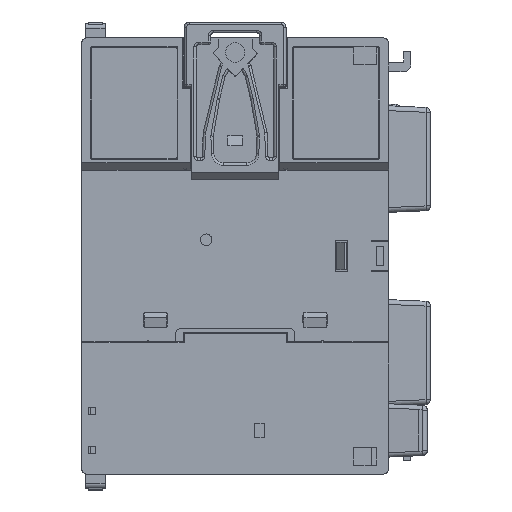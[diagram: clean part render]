
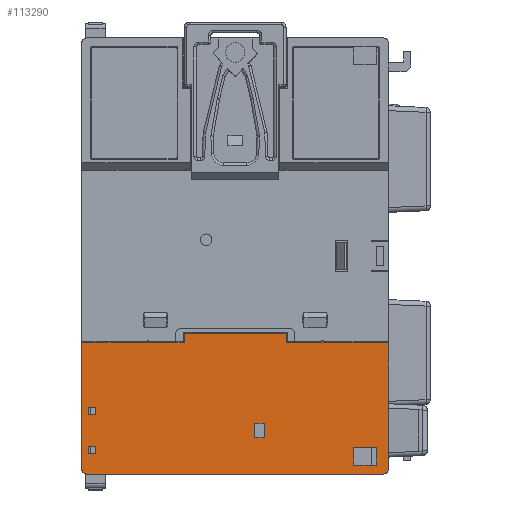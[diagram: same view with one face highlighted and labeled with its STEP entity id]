
A CAD part, front view. The second image highlights one B-rep face of the part: STEP entity #113290.
In plain terms, the highlighted planar face has unit normal (0, -1, 0).
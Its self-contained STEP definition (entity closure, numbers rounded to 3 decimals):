
#24495=DIRECTION('',(0.,0.,-1.));
#24496=VECTOR('',#24495,26.05);
#24497=CARTESIAN_POINT('',(31.65,0.,-17.95));
#24498=LINE('',#24497,#24496);
#24499=DIRECTION('',(-1.,0.,0.));
#24500=VECTOR('',#24499,61.3);
#24501=CARTESIAN_POINT('',(30.65,0.,-45.));
#24502=LINE('',#24501,#24500);
#24503=DIRECTION('',(0.,0.,1.));
#24504=VECTOR('',#24503,26.05);
#24505=CARTESIAN_POINT('',(-31.65,0.,-44.));
#24506=LINE('',#24505,#24504);
#24531=DIRECTION('',(0.,0.,1.));
#24532=VECTOR('',#24531,1.5);
#24533=CARTESIAN_POINT('',(-30.35,0.,-40.75));
#24534=LINE('',#24533,#24532);
#24535=DIRECTION('',(-1.,0.,0.));
#24536=VECTOR('',#24535,1.5);
#24537=CARTESIAN_POINT('',(-28.85,0.,-40.75));
#24538=LINE('',#24537,#24536);
#24539=DIRECTION('',(0.,0.,-1.));
#24540=VECTOR('',#24539,1.5);
#24541=CARTESIAN_POINT('',(-28.85,0.,-39.25));
#24542=LINE('',#24541,#24540);
#24543=DIRECTION('',(1.,0.,0.));
#24544=VECTOR('',#24543,1.5);
#24545=CARTESIAN_POINT('',(-30.35,0.,-39.25));
#24546=LINE('',#24545,#24544);
#24547=DIRECTION('',(0.,0.,1.));
#24548=VECTOR('',#24547,1.5);
#24549=CARTESIAN_POINT('',(-30.35,0.,-32.75));
#24550=LINE('',#24549,#24548);
#24551=DIRECTION('',(-1.,0.,0.));
#24552=VECTOR('',#24551,1.5);
#24553=CARTESIAN_POINT('',(-28.85,0.,-32.75));
#24554=LINE('',#24553,#24552);
#24555=DIRECTION('',(0.,0.,-1.));
#24556=VECTOR('',#24555,1.5);
#24557=CARTESIAN_POINT('',(-28.85,0.,-31.25));
#24558=LINE('',#24557,#24556);
#24559=DIRECTION('',(1.,0.,0.));
#24560=VECTOR('',#24559,1.5);
#24561=CARTESIAN_POINT('',(-30.35,0.,-31.25));
#24562=LINE('',#24561,#24560);
#24563=DIRECTION('',(0.,0.,1.));
#24564=VECTOR('',#24563,3.7);
#24565=CARTESIAN_POINT('',(29.1,0.,-43.2));
#24566=LINE('',#24565,#24564);
#24567=DIRECTION('',(-1.,0.,0.));
#24568=VECTOR('',#24567,4.6);
#24569=CARTESIAN_POINT('',(29.1,0.,-39.5));
#24570=LINE('',#24569,#24568);
#24571=DIRECTION('',(0.,0.,-1.));
#24572=VECTOR('',#24571,3.7);
#24573=CARTESIAN_POINT('',(24.5,0.,-39.5));
#24574=LINE('',#24573,#24572);
#24575=DIRECTION('',(1.,0.,0.));
#24576=VECTOR('',#24575,4.6);
#24577=CARTESIAN_POINT('',(24.5,0.,-43.2));
#24578=LINE('',#24577,#24576);
#24583=DIRECTION('',(0.,0.,1.));
#24584=VECTOR('',#24583,3.);
#24585=CARTESIAN_POINT('',(4.,0.,-37.5));
#24586=LINE('',#24585,#24584);
#24587=DIRECTION('',(-1.,0.,0.));
#24588=VECTOR('',#24587,2.);
#24589=CARTESIAN_POINT('',(6.,0.,-37.5));
#24590=LINE('',#24589,#24588);
#24591=DIRECTION('',(0.,0.,-1.));
#24592=VECTOR('',#24591,3.);
#24593=CARTESIAN_POINT('',(6.,0.,-34.5));
#24594=LINE('',#24593,#24592);
#24595=DIRECTION('',(1.,0.,0.));
#24596=VECTOR('',#24595,2.);
#24597=CARTESIAN_POINT('',(4.,0.,-34.5));
#24598=LINE('',#24597,#24596);
#24599=DIRECTION('',(-1.,0.,0.));
#24600=VECTOR('',#24599,7.3);
#24601=CARTESIAN_POINT('',(17.85,0.,-17.95));
#24602=LINE('',#24601,#24600);
#24615=DIRECTION('',(0.,0.,1.));
#24616=VECTOR('',#24615,1.95);
#24617=CARTESIAN_POINT('',(10.55,0.,-17.95));
#24618=LINE('',#24617,#24616);
#24635=DIRECTION('',(-1.,0.,0.));
#24636=VECTOR('',#24635,21.1);
#24637=CARTESIAN_POINT('',(10.55,0.,-16.));
#24638=LINE('',#24637,#24636);
#24653=DIRECTION('',(0.,0.,-1.));
#24654=VECTOR('',#24653,1.95);
#24655=CARTESIAN_POINT('',(-10.55,0.,-16.));
#24656=LINE('',#24655,#24654);
#24677=DIRECTION('',(-1.,0.,0.));
#24678=VECTOR('',#24677,7.3);
#24679=CARTESIAN_POINT('',(-10.55,0.,-17.95));
#24680=LINE('',#24679,#24678);
#24737=DIRECTION('',(-1.,0.,0.));
#24738=VECTOR('',#24737,13.5);
#24739=CARTESIAN_POINT('',(-18.15,0.,-17.95));
#24740=LINE('',#24739,#24738);
#24746=CARTESIAN_POINT('',(-18.,0.,-17.75));
#24747=DIRECTION('',(0.,-1.,0.));
#24748=DIRECTION('',(0.6,0.,-0.8));
#24749=AXIS2_PLACEMENT_3D('',#24746,#24747,#24748);
#24760=DIRECTION('',(-1.,0.,0.));
#24761=VECTOR('',#24760,13.5);
#24762=CARTESIAN_POINT('',(31.65,0.,-17.95));
#24763=LINE('',#24762,#24761);
#25573=CARTESIAN_POINT('',(30.65,0.,-44.));
#25574=DIRECTION('',(0.,-1.,0.));
#25575=DIRECTION('',(0.,0.,-1.));
#25576=AXIS2_PLACEMENT_3D('',#25573,#25574,#25575);
#28803=CARTESIAN_POINT('',(18.,0.,-17.75));
#28804=DIRECTION('',(0.,-1.,0.));
#28805=DIRECTION('',(0.6,0.,-0.8));
#28806=AXIS2_PLACEMENT_3D('',#28803,#28804,#28805);
#29021=CARTESIAN_POINT('',(-30.65,0.,-44.));
#29022=DIRECTION('',(0.,-1.,0.));
#29023=DIRECTION('',(-1.,0.,0.));
#29024=AXIS2_PLACEMENT_3D('',#29021,#29022,#29023);
#64086=CARTESIAN_POINT('',(30.65,0.,-45.));
#64087=CARTESIAN_POINT('',(31.65,0.,-44.));
#64088=VERTEX_POINT('',#64086);
#64089=VERTEX_POINT('',#64087);
#64090=CARTESIAN_POINT('',(-31.65,0.,-44.));
#64091=CARTESIAN_POINT('',(-30.65,0.,-45.));
#64092=VERTEX_POINT('',#64090);
#64093=VERTEX_POINT('',#64091);
#64218=CARTESIAN_POINT('',(17.85,0.,-17.95));
#64219=CARTESIAN_POINT('',(10.55,0.,-17.95));
#64220=VERTEX_POINT('',#64218);
#64221=VERTEX_POINT('',#64219);
#64226=CARTESIAN_POINT('',(10.55,0.,-16.));
#64227=VERTEX_POINT('',#64226);
#64240=CARTESIAN_POINT('',(-10.55,0.,-16.));
#64241=VERTEX_POINT('',#64240);
#64242=CARTESIAN_POINT('',(-10.55,0.,-17.95));
#64243=VERTEX_POINT('',#64242);
#64248=CARTESIAN_POINT('',(-17.85,0.,-17.95));
#64249=VERTEX_POINT('',#64248);
#64270=CARTESIAN_POINT('',(-18.15,0.,-17.95));
#64271=CARTESIAN_POINT('',(-31.65,0.,-17.95));
#64272=VERTEX_POINT('',#64270);
#64273=VERTEX_POINT('',#64271);
#64278=CARTESIAN_POINT('',(31.65,0.,-17.95));
#64279=VERTEX_POINT('',#64278);
#64280=CARTESIAN_POINT('',(18.15,0.,-17.95));
#64281=VERTEX_POINT('',#64280);
#64523=CARTESIAN_POINT('',(-30.35,0.,-40.75));
#64524=CARTESIAN_POINT('',(-30.35,0.,-39.25));
#64525=VERTEX_POINT('',#64523);
#64526=VERTEX_POINT('',#64524);
#64527=CARTESIAN_POINT('',(-28.85,0.,-39.25));
#64528=VERTEX_POINT('',#64527);
#64529=CARTESIAN_POINT('',(-28.85,0.,-40.75));
#64530=VERTEX_POINT('',#64529);
#64531=CARTESIAN_POINT('',(-30.35,0.,-32.75));
#64532=CARTESIAN_POINT('',(-30.35,0.,-31.25));
#64533=VERTEX_POINT('',#64531);
#64534=VERTEX_POINT('',#64532);
#64535=CARTESIAN_POINT('',(-28.85,0.,-31.25));
#64536=VERTEX_POINT('',#64535);
#64537=CARTESIAN_POINT('',(-28.85,0.,-32.75));
#64538=VERTEX_POINT('',#64537);
#64551=CARTESIAN_POINT('',(24.5,0.,-43.2));
#64552=CARTESIAN_POINT('',(29.1,0.,-43.2));
#64553=VERTEX_POINT('',#64551);
#64554=VERTEX_POINT('',#64552);
#64557=CARTESIAN_POINT('',(4.,0.,-37.5));
#64558=CARTESIAN_POINT('',(4.,0.,-34.5));
#64559=VERTEX_POINT('',#64557);
#64560=VERTEX_POINT('',#64558);
#64561=CARTESIAN_POINT('',(6.,0.,-34.5));
#64562=VERTEX_POINT('',#64561);
#64563=CARTESIAN_POINT('',(6.,0.,-37.5));
#64564=VERTEX_POINT('',#64563);
#65769=CARTESIAN_POINT('',(29.1,0.,-39.5));
#65770=VERTEX_POINT('',#65769);
#65771=CARTESIAN_POINT('',(24.5,0.,-39.5));
#65772=VERTEX_POINT('',#65771);
#113218=CARTESIAN_POINT('',(0.,0.,0.));
#113219=DIRECTION('',(0.,1.,0.));
#113220=DIRECTION('',(1.,0.,0.));
#113221=AXIS2_PLACEMENT_3D('',#113218,#113219,#113220);
#113222=PLANE('',#113221);
#113224=ORIENTED_EDGE('',*,*,#113223,.F.);
#113226=ORIENTED_EDGE('',*,*,#113225,.F.);
#113228=ORIENTED_EDGE('',*,*,#113227,.F.);
#113230=ORIENTED_EDGE('',*,*,#113229,.T.);
#113232=ORIENTED_EDGE('',*,*,#113231,.F.);
#113233=ORIENTED_EDGE('',*,*,#99574,.T.);
#113235=ORIENTED_EDGE('',*,*,#113234,.F.);
#113236=ORIENTED_EDGE('',*,*,#112439,.T.);
#113238=ORIENTED_EDGE('',*,*,#113237,.F.);
#113240=ORIENTED_EDGE('',*,*,#113239,.F.);
#113242=ORIENTED_EDGE('',*,*,#113241,.F.);
#113244=ORIENTED_EDGE('',*,*,#113243,.F.);
#113246=ORIENTED_EDGE('',*,*,#113245,.F.);
#113248=ORIENTED_EDGE('',*,*,#113247,.F.);
#113249=EDGE_LOOP('',(#113224,#113226,#113228,#113230,#113232,#113233,#113235,
#113236,#113238,#113240,#113242,#113244,#113246,#113248));
#113250=FACE_OUTER_BOUND('',#113249,.F.);
#113251=ORIENTED_EDGE('',*,*,#113207,.F.);
#113253=ORIENTED_EDGE('',*,*,#113252,.F.);
#113255=ORIENTED_EDGE('',*,*,#113254,.F.);
#113257=ORIENTED_EDGE('',*,*,#113256,.F.);
#113258=EDGE_LOOP('',(#113251,#113253,#113255,#113257));
#113259=FACE_BOUND('',#113258,.F.);
#113261=ORIENTED_EDGE('',*,*,#113260,.F.);
#113263=ORIENTED_EDGE('',*,*,#113262,.F.);
#113265=ORIENTED_EDGE('',*,*,#113264,.F.);
#113267=ORIENTED_EDGE('',*,*,#113266,.F.);
#113268=EDGE_LOOP('',(#113261,#113263,#113265,#113267));
#113269=FACE_BOUND('',#113268,.F.);
#113271=ORIENTED_EDGE('',*,*,#113270,.T.);
#113273=ORIENTED_EDGE('',*,*,#113272,.T.);
#113275=ORIENTED_EDGE('',*,*,#113274,.T.);
#113277=ORIENTED_EDGE('',*,*,#113276,.T.);
#113278=EDGE_LOOP('',(#113271,#113273,#113275,#113277));
#113279=FACE_BOUND('',#113278,.F.);
#113281=ORIENTED_EDGE('',*,*,#113280,.F.);
#113283=ORIENTED_EDGE('',*,*,#113282,.F.);
#113285=ORIENTED_EDGE('',*,*,#113284,.F.);
#113287=ORIENTED_EDGE('',*,*,#113286,.F.);
#113288=EDGE_LOOP('',(#113281,#113283,#113285,#113287));
#113289=FACE_BOUND('',#113288,.F.);
#113290=ADVANCED_FACE('',(#113250,#113259,#113269,#113279,#113289),#113222,.F.);
#24750=CIRCLE('',#24749,0.25);
#25577=CIRCLE('',#25576,1.);
#28807=CIRCLE('',#28806,0.25);
#29025=CIRCLE('',#29024,1.);
#99574=EDGE_CURVE('',#64088,#64093,#24502,.T.);
#112439=EDGE_CURVE('',#64092,#64273,#24506,.T.);
#113207=EDGE_CURVE('',#64525,#64526,#24534,.T.);
#113223=EDGE_CURVE('',#64220,#64221,#24602,.T.);
#113225=EDGE_CURVE('',#64281,#64220,#28807,.T.);
#113227=EDGE_CURVE('',#64279,#64281,#24763,.T.);
#113229=EDGE_CURVE('',#64279,#64089,#24498,.T.);
#113231=EDGE_CURVE('',#64088,#64089,#25577,.T.);
#113234=EDGE_CURVE('',#64092,#64093,#29025,.T.);
#113237=EDGE_CURVE('',#64272,#64273,#24740,.T.);
#113239=EDGE_CURVE('',#64249,#64272,#24750,.T.);
#113241=EDGE_CURVE('',#64243,#64249,#24680,.T.);
#113243=EDGE_CURVE('',#64241,#64243,#24656,.T.);
#113245=EDGE_CURVE('',#64227,#64241,#24638,.T.);
#113247=EDGE_CURVE('',#64221,#64227,#24618,.T.);
#113252=EDGE_CURVE('',#64530,#64525,#24538,.T.);
#113254=EDGE_CURVE('',#64528,#64530,#24542,.T.);
#113256=EDGE_CURVE('',#64526,#64528,#24546,.T.);
#113260=EDGE_CURVE('',#64533,#64534,#24550,.T.);
#113262=EDGE_CURVE('',#64538,#64533,#24554,.T.);
#113264=EDGE_CURVE('',#64536,#64538,#24558,.T.);
#113266=EDGE_CURVE('',#64534,#64536,#24562,.T.);
#113270=EDGE_CURVE('',#64554,#65770,#24566,.T.);
#113272=EDGE_CURVE('',#65770,#65772,#24570,.T.);
#113274=EDGE_CURVE('',#65772,#64553,#24574,.T.);
#113276=EDGE_CURVE('',#64553,#64554,#24578,.T.);
#113280=EDGE_CURVE('',#64559,#64560,#24586,.T.);
#113282=EDGE_CURVE('',#64564,#64559,#24590,.T.);
#113284=EDGE_CURVE('',#64562,#64564,#24594,.T.);
#113286=EDGE_CURVE('',#64560,#64562,#24598,.T.);
